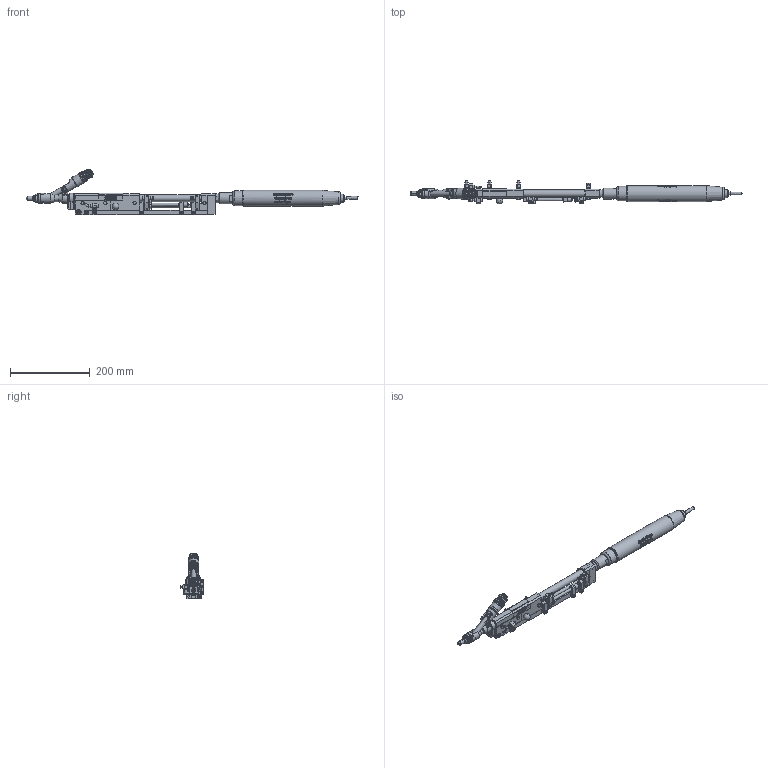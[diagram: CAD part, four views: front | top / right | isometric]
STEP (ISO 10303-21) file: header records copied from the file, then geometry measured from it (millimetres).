
FILE_DESCRIPTION(/* description */ ('© Copyright 2019 – Urheberrechtshinweis Diese CAD-Daten sind urheberrechtlich geschützt. Das Urheberrecht liegt, soweit nicht ausdrücklich anders gekennzeichnet, bei Stöger Automation GmbH. Bitte fragen Sie uns, falls Sie die CAD-Daten vervielfältigen oder'),/* implementation_level */ '2;1');
FILE_NAME(/* name */ 'H:\00_0 Arbeiten für Marketing\581100\581100.stp',/* time_stamp */ '2020-12-04T10:49:10+01:00',/* author */ ('Stöger Automation GmbH'),/* organization */ ('Stöger Automation GmbH'),/* preprocessor_version */ 'ST-DEVELOPER v17',/* originating_system */ 'Autodesk Inventor 2018',/* authorisation */ '');
FILE_SCHEMA (('CONFIG_CONTROL_DESIGN'));
Products named in the file (1): 581100
Bounding box: 832.12 x 60 x 115.26 mm (x, y, z)
Volume: 384662.6 mm3; surface area: 250164.1 mm2
Topology: 11 solids, 12 shells, 3956 faces, 10947 edges, 7267 vertices
Faces by surface type: plane 2162, cylinder 791, bspline 607, cone 294, torus 82, sphere 20
Full cylindrical faces by diameter (mm): 1 x2, 1.5 x3, 2 x3, 2.013 x2, 2.2 x1, 2.459 x3, 2.5 x1, 3 x5, 3.04 x3, 3.2 x3, 3.242 x14, 3.4 x2, 3.8 x4, 4 x9, 4.1 x1, 4.134 x14, 4.3 x2, 4.45 x2, 4.5 x4, 4.917 x1, 5 x9, 5.1 x3, 5.5 x8, 5.6 x3, 6 x11, 6.1 x4, 6.2 x1, 6.5 x6, 7 x16, 7.1 x1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
Entity records: 284509 total; most frequent: CARTESIAN_POINT 185190, ORIENTED_EDGE 21810, DIRECTION 17571, EDGE_CURVE 10905, VERTEX_POINT 7266, AXIS2_PLACEMENT_3D 6156, LINE 5259, VECTOR 5259
